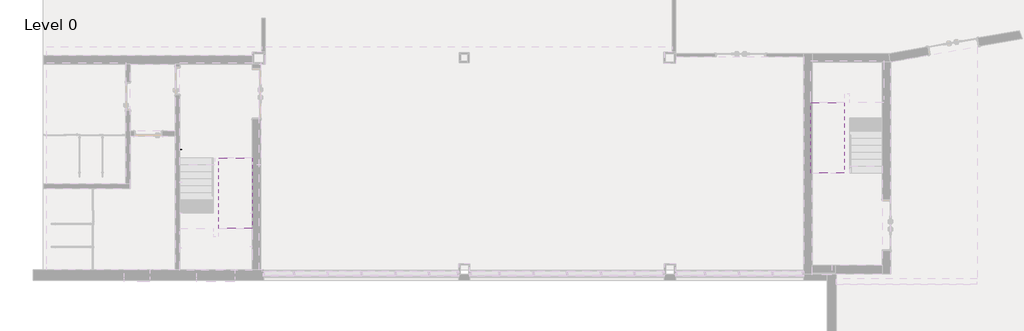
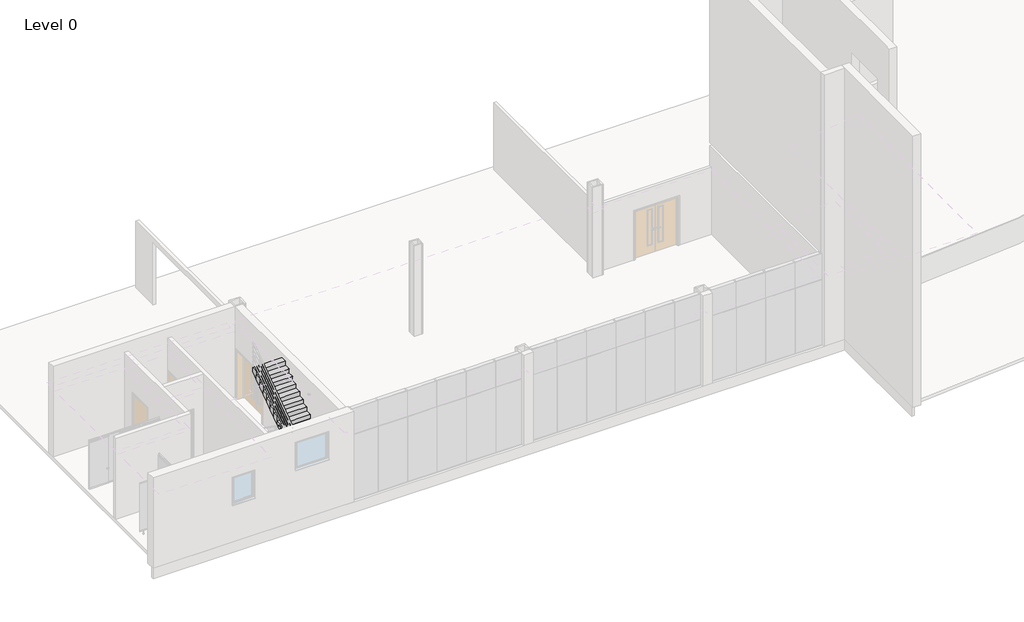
# One storey, part 12 of 14: 2 stair flights, 1 proxy.
"""IFC4 building model written with IfcOpenShell, lengths in millimetres."""

from ifc_helpers import new_model, si_unit, frame, origin, place, context, project, spatial, polyline, outline, extrude, faceted_brep, transform, mapped, element, save
from components import support_metal_circular1_support_metal_circular_016e83f0

model = new_model("IFC4")

# Units and contexts
model_context = context("Model", 3, world=origin())
ifc_project = project(units=[si_unit("LENGTHUNIT", "METRE", prefix="MILLI")], contexts=[model_context])

# Site, building, storey
site = spatial("IfcSite", under=ifc_project)
building = spatial("IfcBuilding", under=site)
storey = spatial("IfcBuildingStorey", under=building, Name="Level 0", Elevation=0.0)

# Proxy
placement = place(None, origin())
support_metal_circular1_support_metal_circular_shape = support_metal_circular1_support_metal_circular_016e83f0(model_context)
element("IfcBuildingElementProxy", 1, Name="Support - Metal - Circular1 : Support - Metal - Circular", ObjectType="Support - Metal - Circular1 : Support - Metal - Circular", at=placement, inside=storey, context=model_context, shape_type="MappedRepresentation", body=[
    mapped(support_metal_circular1_support_metal_circular_shape, transform((5322.6000024, 4600.0, 1059.3919555), x_axis=(0.0, 1.0, 0.0), y_axis=(-1.0, 0.0, 0.0), z_axis=(0.0, 0.0, 1.0))),
])

# Stair flights
element("IfcStairFlight", 2, ObjectType="1/16\"_Tread-6\"_Depth", at=placement, inside=storey, context=model_context, shape_type="SolidModel", body=[
    faceted_brep([(6637.2000025, 2050.0, 2126.2727273), (6637.2000025, 1800.0, 2126.2727273), (7837.2000023, 1800.0, 2126.2727273), (7837.2000023, 2050.0, 2126.2727273), (6637.2000025, 2050.0, 1942.3890055), (6637.2000025, 1800.0, 1765.1162782), (6637.2000025, 1800.0, 1949.0), (7837.2000023, 1800.0, 1765.1162782), (7837.2000023, 1800.0, 1949.0), (7837.2000023, 2050.0, 1942.3890055), (6637.2000025, 2300.0, 2303.5454545), (6637.2000025, 2050.0, 2303.5454545), (7837.2000023, 2050.0, 2303.5454545), (7837.2000023, 2300.0, 2303.5454545), (6637.2000025, 2300.0, 2119.6617328), (7837.2000023, 2300.0, 2119.6617328), (6637.2000025, 2550.0, 2480.8181818), (6637.2000025, 2300.0, 2480.8181818), (7837.2000023, 2300.0, 2480.8181818), (7837.2000023, 2550.0, 2480.8181818), (6637.2000025, 2550.0, 2296.93446), (7837.2000023, 2550.0, 2296.93446), (6637.2000025, 2800.0, 2658.0909091), (6637.2000025, 2550.0, 2658.0909091), (7837.2000023, 2550.0, 2658.0909091), (7837.2000023, 2800.0, 2658.0909091), (6637.2000025, 2800.0, 2474.2071873), (7837.2000023, 2800.0, 2474.2071873), (6637.2000025, 3050.0, 2835.3636364), (6637.2000025, 2800.0, 2835.3636364), (7837.2000023, 2800.0, 2835.3636364), (7837.2000023, 3050.0, 2835.3636364), (6637.2000025, 3050.0, 2651.4799146), (7837.2000023, 3050.0, 2651.4799146), (6637.2000025, 3300.0, 3012.6363636), (6637.2000025, 3050.0, 3012.6363636), (7837.2000023, 3050.0, 3012.6363636), (7837.2000023, 3300.0, 3012.6363636), (6637.2000025, 3300.0, 2828.7526418), (7837.2000023, 3300.0, 2828.7526418), (6637.2000025, 3550.0, 3189.9090909), (6637.2000025, 3300.0, 3189.9090909), (7837.2000023, 3300.0, 3189.9090909), (7837.2000023, 3550.0, 3189.9090909), (6637.2000025, 3550.0, 3006.0253691), (7837.2000023, 3550.0, 3006.0253691), (6637.2000025, 3800.0, 3367.1818182), (6637.2000025, 3550.0, 3367.1818182), (7837.2000023, 3550.0, 3367.1818182), (7837.2000023, 3800.0, 3367.1818182), (6637.2000025, 3800.0, 3183.2980964), (7837.2000023, 3800.0, 3183.2980964), (6637.2000025, 4050.0, 3544.4545455), (6637.2000025, 3800.0, 3544.4545455), (7837.2000023, 3800.0, 3544.4545455), (7837.2000023, 4050.0, 3544.4545455), (6637.2000025, 4050.0, 3360.5708237), (7837.2000023, 4050.0, 3360.5708237), (6637.2000025, 4300.0, 3537.8435509), (7837.2000023, 4300.0, 3537.8435509), (6637.2000025, 4300.0, 3721.7272727), (6637.2000025, 4050.0, 3721.7272727), (7837.2000023, 4050.0, 3721.7272727), (7837.2000023, 4300.0, 3721.7272727)], [[[0, 1, 2, 3]], [[1, 0, 4, 5, 6]], [[2, 1, 6, 5, 7, 8]], [[3, 2, 8, 7, 9]], [[10, 11, 12, 13]], [[11, 10, 14, 4, 0]], [[12, 11, 0, 3]], [[13, 12, 3, 9, 15]], [[16, 17, 18, 19]], [[17, 16, 20, 14, 10]], [[18, 17, 10, 13]], [[19, 18, 13, 15, 21]], [[22, 23, 24, 25]], [[23, 22, 26, 20, 16]], [[24, 23, 16, 19]], [[25, 24, 19, 21, 27]], [[28, 29, 30, 31]], [[29, 28, 32, 26, 22]], [[30, 29, 22, 25]], [[31, 30, 25, 27, 33]], [[34, 35, 36, 37]], [[35, 34, 38, 32, 28]], [[36, 35, 28, 31]], [[37, 36, 31, 33, 39]], [[40, 41, 42, 43]], [[41, 40, 44, 38, 34]], [[42, 41, 34, 37]], [[43, 42, 37, 39, 45]], [[46, 47, 48, 49]], [[47, 46, 50, 44, 40]], [[48, 47, 40, 43]], [[49, 48, 43, 45, 51]], [[52, 53, 54, 55]], [[53, 52, 56, 50, 46]], [[54, 53, 46, 49]], [[55, 54, 49, 51, 57]], [[5, 4, 14, 20, 26, 32, 38, 44, 50, 56, 58, 59, 57, 51, 45, 39, 33, 27, 21, 15, 9, 7]], [[60, 61, 62, 63]], [[61, 60, 58, 56, 52]], [[62, 61, 52, 55]], [[63, 62, 55, 57, 59]], [[60, 63, 59, 58]]]),
    extrude(outline(polyline([(6637.2000025, 2050.0), (7837.2000023, 2050.0), (7837.2000023, 1800.0), (6637.2000025, 1800.0), (6637.2000025, 2050.0)])), frame((0.0, 0.0, 2126.2727273), z_axis=(0.0, 0.0, 1.0), x_axis=(1.0, 0.0, 0.0)), (0.0, 0.0, 1.0), 1.0),
    extrude(outline(polyline([(6637.2000025, 2300.0), (7837.2000023, 2300.0), (7837.2000023, 2050.0), (6637.2000025, 2050.0), (6637.2000025, 2300.0)])), frame((0.0, 0.0, 2303.5454545), z_axis=(0.0, 0.0, 1.0), x_axis=(1.0, 0.0, 0.0)), (0.0, 0.0, 1.0), 1.0),
    extrude(outline(polyline([(6637.2000025, 2550.0), (7837.2000023, 2550.0), (7837.2000023, 2300.0), (6637.2000025, 2300.0), (6637.2000025, 2550.0)])), frame((0.0, 0.0, 2480.8181818), z_axis=(0.0, 0.0, 1.0), x_axis=(1.0, 0.0, 0.0)), (0.0, 0.0, 1.0), 1.0),
    extrude(outline(polyline([(6637.2000025, 2800.0), (7837.2000023, 2800.0), (7837.2000023, 2550.0), (6637.2000025, 2550.0), (6637.2000025, 2800.0)])), frame((0.0, 0.0, 2658.0909091), z_axis=(0.0, 0.0, 1.0), x_axis=(1.0, 0.0, 0.0)), (0.0, 0.0, 1.0), 1.0),
    extrude(outline(polyline([(6637.2000025, 3050.0), (7837.2000023, 3050.0), (7837.2000023, 2800.0), (6637.2000025, 2800.0), (6637.2000025, 3050.0)])), frame((0.0, 0.0, 2835.3636364), z_axis=(0.0, 0.0, 1.0), x_axis=(1.0, 0.0, 0.0)), (0.0, 0.0, 1.0), 1.0),
    extrude(outline(polyline([(6637.2000025, 3300.0), (7837.2000023, 3300.0), (7837.2000023, 3050.0), (6637.2000025, 3050.0), (6637.2000025, 3300.0)])), frame((0.0, 0.0, 3012.6363636), z_axis=(0.0, 0.0, 1.0), x_axis=(1.0, 0.0, 0.0)), (0.0, 0.0, 1.0), 1.0),
    extrude(outline(polyline([(6637.2000025, 3550.0), (7837.2000023, 3550.0), (7837.2000023, 3300.0), (6637.2000025, 3300.0), (6637.2000025, 3550.0)])), frame((0.0, 0.0, 3189.9090909), z_axis=(0.0, 0.0, 1.0), x_axis=(1.0, 0.0, 0.0)), (0.0, 0.0, 1.0), 1.0),
    extrude(outline(polyline([(6637.2000025, 3800.0), (7837.2000023, 3800.0), (7837.2000023, 3550.0), (6637.2000025, 3550.0), (6637.2000025, 3800.0)])), frame((0.0, 0.0, 3367.1818182), z_axis=(0.0, 0.0, 1.0), x_axis=(1.0, 0.0, 0.0)), (0.0, 0.0, 1.0), 1.0),
    extrude(outline(polyline([(6637.2000025, 4050.0), (7837.2000023, 4050.0), (7837.2000023, 3800.0), (6637.2000025, 3800.0), (6637.2000025, 4050.0)])), frame((0.0, 0.0, 3544.4545455), z_axis=(0.0, 0.0, 1.0), x_axis=(1.0, 0.0, 0.0)), (0.0, 0.0, 1.0), 1.0),
    extrude(outline(polyline([(6637.2000025, 4300.0), (7837.2000023, 4300.0), (7837.2000023, 4050.0), (6637.2000025, 4050.0), (6637.2000025, 4300.0)])), frame((0.0, 0.0, 3721.7272727), z_axis=(0.0, 0.0, 1.0), x_axis=(1.0, 0.0, 0.0)), (0.0, 0.0, 1.0), 1.0),
])
element("IfcStairFlight", 3, ObjectType="1/16\"_Tread-6\"_Depth", at=placement, inside=storey, context=model_context, shape_type="SolidModel", body=[
    faceted_brep([(28862.2000029, 6013.2000006, 2126.2727273), (28862.2000029, 6263.2000006, 2126.2727273), (27662.2000031, 6263.2000006, 2126.2727273), (27662.2000031, 6013.2000006, 2126.2727273), (28862.2000029, 6013.2000006, 1942.3890055), (28862.2000029, 6263.2000006, 1765.1162782), (28862.2000029, 6263.2000006, 1949.0), (27662.2000031, 6263.2000006, 1765.1162782), (27662.2000031, 6263.2000006, 1949.0), (27662.2000031, 6013.2000006, 1942.3890055), (28862.2000029, 5763.2000006, 2303.5454545), (28862.2000029, 6013.2000006, 2303.5454545), (27662.2000031, 6013.2000006, 2303.5454545), (27662.2000031, 5763.2000006, 2303.5454545), (28862.2000029, 5763.2000006, 2119.6617328), (27662.2000031, 5763.2000006, 2119.6617328), (28862.2000029, 5513.2000006, 2480.8181818), (28862.2000029, 5763.2000006, 2480.8181818), (27662.2000031, 5763.2000006, 2480.8181818), (27662.2000031, 5513.2000006, 2480.8181818), (28862.2000029, 5513.2000006, 2296.93446), (27662.2000031, 5513.2000006, 2296.93446), (28862.2000029, 5263.2000006, 2658.0909091), (28862.2000029, 5513.2000006, 2658.0909091), (27662.2000031, 5513.2000006, 2658.0909091), (27662.2000031, 5263.2000006, 2658.0909091), (28862.2000029, 5263.2000006, 2474.2071873), (27662.2000031, 5263.2000006, 2474.2071873), (28862.2000029, 5013.2000006, 2835.3636364), (28862.2000029, 5263.2000006, 2835.3636364), (27662.2000031, 5263.2000006, 2835.3636364), (27662.2000031, 5013.2000006, 2835.3636364), (28862.2000029, 5013.2000006, 2651.4799146), (27662.2000031, 5013.2000006, 2651.4799146), (28862.2000029, 4763.2000006, 3012.6363636), (28862.2000029, 5013.2000006, 3012.6363636), (27662.2000031, 5013.2000006, 3012.6363636), (27662.2000031, 4763.2000006, 3012.6363636), (28862.2000029, 4763.2000006, 2828.7526418), (27662.2000031, 4763.2000006, 2828.7526418), (28862.2000029, 4513.2000006, 3189.9090909), (28862.2000029, 4763.2000006, 3189.9090909), (27662.2000031, 4763.2000006, 3189.9090909), (27662.2000031, 4513.2000006, 3189.9090909), (28862.2000029, 4513.2000006, 3006.0253691), (27662.2000031, 4513.2000006, 3006.0253691), (28862.2000029, 4263.2000006, 3367.1818182), (28862.2000029, 4513.2000006, 3367.1818182), (27662.2000031, 4513.2000006, 3367.1818182), (27662.2000031, 4263.2000006, 3367.1818182), (28862.2000029, 4263.2000006, 3183.2980964), (27662.2000031, 4263.2000006, 3183.2980964), (28862.2000029, 4013.2000006, 3544.4545455), (28862.2000029, 4263.2000006, 3544.4545455), (27662.2000031, 4263.2000006, 3544.4545455), (27662.2000031, 4013.2000006, 3544.4545455), (28862.2000029, 4013.2000006, 3360.5708237), (27662.2000031, 4013.2000006, 3360.5708237), (28862.2000029, 3763.2000006, 3537.8435509), (27662.2000031, 3763.2000006, 3537.8435509), (28862.2000029, 3763.2000006, 3721.7272727), (28862.2000029, 4013.2000006, 3721.7272727), (27662.2000031, 4013.2000006, 3721.7272727), (27662.2000031, 3763.2000006, 3721.7272727)], [[[0, 1, 2, 3]], [[1, 0, 4, 5, 6]], [[2, 1, 6, 5, 7, 8]], [[3, 2, 8, 7, 9]], [[10, 11, 12, 13]], [[11, 10, 14, 4, 0]], [[12, 11, 0, 3]], [[13, 12, 3, 9, 15]], [[16, 17, 18, 19]], [[17, 16, 20, 14, 10]], [[18, 17, 10, 13]], [[19, 18, 13, 15, 21]], [[22, 23, 24, 25]], [[23, 22, 26, 20, 16]], [[24, 23, 16, 19]], [[25, 24, 19, 21, 27]], [[28, 29, 30, 31]], [[29, 28, 32, 26, 22]], [[30, 29, 22, 25]], [[31, 30, 25, 27, 33]], [[34, 35, 36, 37]], [[35, 34, 38, 32, 28]], [[36, 35, 28, 31]], [[37, 36, 31, 33, 39]], [[40, 41, 42, 43]], [[41, 40, 44, 38, 34]], [[42, 41, 34, 37]], [[43, 42, 37, 39, 45]], [[46, 47, 48, 49]], [[47, 46, 50, 44, 40]], [[48, 47, 40, 43]], [[49, 48, 43, 45, 51]], [[52, 53, 54, 55]], [[53, 52, 56, 50, 46]], [[54, 53, 46, 49]], [[55, 54, 49, 51, 57]], [[5, 4, 14, 20, 26, 32, 38, 44, 50, 56, 58, 59, 57, 51, 45, 39, 33, 27, 21, 15, 9, 7]], [[60, 61, 62, 63]], [[61, 60, 58, 56, 52]], [[62, 61, 52, 55]], [[63, 62, 55, 57, 59]], [[60, 63, 59, 58]]]),
    extrude(outline(polyline([(28862.2000029, 6013.2000006), (27662.2000031, 6013.2000006), (27662.2000031, 6263.2000006), (28862.2000029, 6263.2000006), (28862.2000029, 6013.2000006)])), frame((0.0, 0.0, 2126.2727273), z_axis=(0.0, 0.0, 1.0), x_axis=(1.0, 0.0, 0.0)), (0.0, 0.0, 1.0), 1.0),
    extrude(outline(polyline([(28862.2000029, 5763.2000006), (27662.2000031, 5763.2000006), (27662.2000031, 6013.2000006), (28862.2000029, 6013.2000006), (28862.2000029, 5763.2000006)])), frame((0.0, 0.0, 2303.5454545), z_axis=(0.0, 0.0, 1.0), x_axis=(1.0, 0.0, 0.0)), (0.0, 0.0, 1.0), 1.0),
    extrude(outline(polyline([(28862.2000029, 5513.2000006), (27662.2000031, 5513.2000006), (27662.2000031, 5763.2000006), (28862.2000029, 5763.2000006), (28862.2000029, 5513.2000006)])), frame((0.0, 0.0, 2480.8181818), z_axis=(0.0, 0.0, 1.0), x_axis=(1.0, 0.0, 0.0)), (0.0, 0.0, 1.0), 1.0),
    extrude(outline(polyline([(28862.2000029, 5263.2000006), (27662.2000031, 5263.2000006), (27662.2000031, 5513.2000006), (28862.2000029, 5513.2000006), (28862.2000029, 5263.2000006)])), frame((0.0, 0.0, 2658.0909091), z_axis=(0.0, 0.0, 1.0), x_axis=(1.0, 0.0, 0.0)), (0.0, 0.0, 1.0), 1.0),
    extrude(outline(polyline([(28862.2000029, 5013.2000006), (27662.2000031, 5013.2000006), (27662.2000031, 5263.2000006), (28862.2000029, 5263.2000006), (28862.2000029, 5013.2000006)])), frame((0.0, 0.0, 2835.3636364), z_axis=(0.0, 0.0, 1.0), x_axis=(1.0, 0.0, 0.0)), (0.0, 0.0, 1.0), 1.0),
    extrude(outline(polyline([(28862.2000029, 4763.2000006), (27662.2000031, 4763.2000006), (27662.2000031, 5013.2000006), (28862.2000029, 5013.2000006), (28862.2000029, 4763.2000006)])), frame((0.0, 0.0, 3012.6363636), z_axis=(0.0, 0.0, 1.0), x_axis=(1.0, 0.0, 0.0)), (0.0, 0.0, 1.0), 1.0),
    extrude(outline(polyline([(28862.2000029, 4513.2000006), (27662.2000031, 4513.2000006), (27662.2000031, 4763.2000006), (28862.2000029, 4763.2000006), (28862.2000029, 4513.2000006)])), frame((0.0, 0.0, 3189.9090909), z_axis=(0.0, 0.0, 1.0), x_axis=(1.0, 0.0, 0.0)), (0.0, 0.0, 1.0), 1.0),
    extrude(outline(polyline([(28862.2000029, 4263.2000006), (27662.2000031, 4263.2000006), (27662.2000031, 4513.2000006), (28862.2000029, 4513.2000006), (28862.2000029, 4263.2000006)])), frame((0.0, 0.0, 3367.1818182), z_axis=(0.0, 0.0, 1.0), x_axis=(1.0, 0.0, 0.0)), (0.0, 0.0, 1.0), 1.0),
    extrude(outline(polyline([(28862.2000029, 4013.2000006), (27662.2000031, 4013.2000006), (27662.2000031, 4263.2000006), (28862.2000029, 4263.2000006), (28862.2000029, 4013.2000006)])), frame((0.0, 0.0, 3544.4545455), z_axis=(0.0, 0.0, 1.0), x_axis=(1.0, 0.0, 0.0)), (0.0, 0.0, 1.0), 1.0),
    extrude(outline(polyline([(28862.2000029, 3763.2000006), (27662.2000031, 3763.2000006), (27662.2000031, 4013.2000006), (28862.2000029, 4013.2000006), (28862.2000029, 3763.2000006)])), frame((0.0, 0.0, 3721.7272727), z_axis=(0.0, 0.0, 1.0), x_axis=(1.0, 0.0, 0.0)), (0.0, 0.0, 1.0), 1.0),
])

save(model, "model.ifc")
